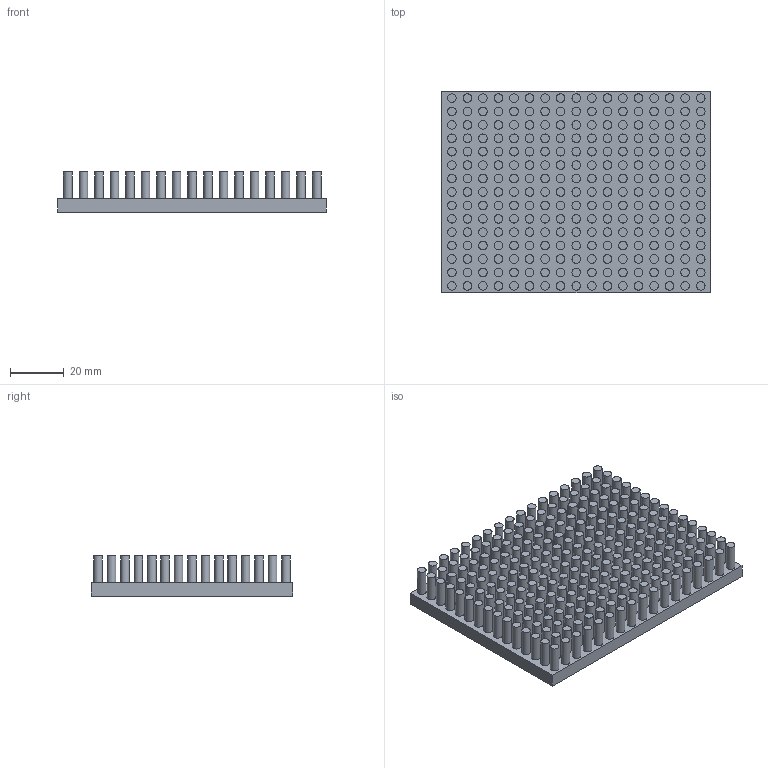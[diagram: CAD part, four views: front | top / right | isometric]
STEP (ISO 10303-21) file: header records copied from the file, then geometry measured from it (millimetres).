
FILE_DESCRIPTION(/* description */ (''),/* implementation_level */ '2;1');
FILE_NAME(/* name */ 'PB10075-B5-H15-P255.stp',/* time_stamp */ '2013-12-30T14:27:02+08:00',/* author */ (''),/* organization */ (''),/* preprocessor_version */ 'ST-DEVELOPER v14',/* originating_system */ 'SIEMENS PLM Software NX 8.0',/* authorisation */ '');
FILE_SCHEMA (('CONFIG_CONTROL_DESIGN'));
Length unit declared in the file: millimetre
Products named in the file (1): PB10075-P255
Bounding box: 100 x 75 x 15 mm (x, y, z)
Volume: 58008.3 mm3; surface area: 42385.4 mm2
Topology: 1 solids, 1 shells, 516 faces, 777 edges, 518 vertices
Faces by surface type: plane 261, cylinder 255
Full cylindrical faces by diameter (mm): 3.2 x255
Entity records: 10440 total; most frequent: DIRECTION 2066, CARTESIAN_POINT 1557, ORIENTED_EDGE 1044, AXIS2_PLACEMENT_3D 1027, EDGE_LOOP 1026, FACE_BOUND 766, EDGE_CURVE 522, VERTEX_POINT 518
